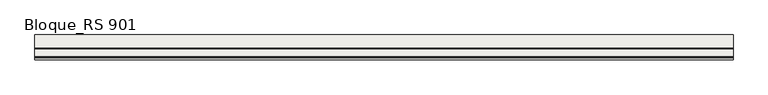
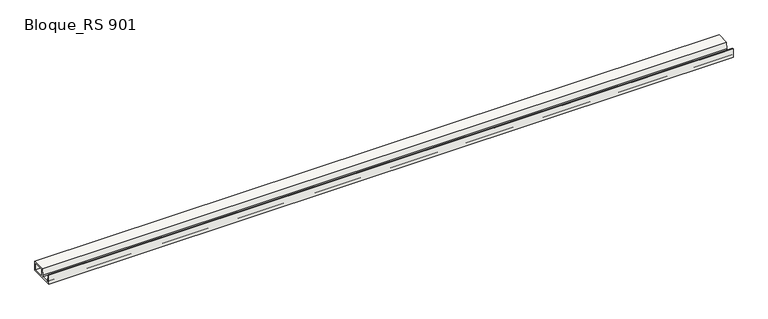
"""IFC4 building model written with IfcOpenShell, lengths in millimetres: slab geometry, ROSA GRES_RS 901 : Bloque_RS 901."""

from ifc_helpers import new_model, si_unit, point, frame, frame_2d, origin, place, context, project, spatial, polyline, circle_curve, trimmed, segment, composite_curve, outline, extrude, source, transform, mapped, element, save


def bloque_rs_901_d4c59469(model_context):
    return source(origin(), model_context, "Body", "SweptSolid", [
        extrude(outline(composite_curve([segment(polyline([(-12.836227, 188.7539108), (-12.836227, 1.7539108), (-508.836227, 1.7539108), (-508.836227, 188.7539108), (-481.967602, 188.7539108), (-468.4315983, 49.1487962)]), True, "CONTINUOUS"), segment(trimmed(circle_curve(frame_2d((-448.7892677, 51.599206)), 19.7945866), [point((-468.4315983, 49.1487962))], [point((-448.3978535, 31.8084896))], True, "CARTESIAN"), True, "CONTINUOUS"), segment(polyline([(-448.3978535, 31.8084896), (-302.2746005, 31.8084896)]), True, "CONTINUOUS"), segment(trimmed(circle_curve(frame_2d((-301.8831862, 51.599206)), 19.7945866), [point((-302.2746005, 31.8084896))], [point((-282.2408556, 49.1487962))], True, "CARTESIAN"), True, "CONTINUOUS"), segment(polyline([(-282.2408556, 49.1487962), (-268.704852, 188.7539108), (-12.836227, 188.7539108)]), True, "CONTINUOUS")], self_intersect=False), holes=[polyline([(-241.836227, 158.7539108), (-241.836227, 26.7539108), (-37.836227, 26.7539108), (-37.836227, 158.7539108), (-241.836227, 158.7539108)])]), frame((0.0, 0.0, 0.0), z_axis=(1.0, 0.0, 0.0), x_axis=(0.0, 1.0, 0.0)), (0.0, 0.0, 1.0), 14003.6565286),
    ])


if __name__ == "__main__":
    model = new_model("IFC4")
    model_context = context("Model", 3, world=origin())
    ifc_project = project(units=[si_unit("LENGTHUNIT", "METRE", prefix="MILLI")], contexts=[model_context])
    site = spatial("IfcSite", under=ifc_project)
    building = spatial("IfcBuilding", under=site)
    placement = place(None, origin())
    bloque_rs_901_shape = bloque_rs_901_d4c59469(model_context)
    element("IfcSlab", 1, ObjectType="ROSA GRES_RS 901 : Bloque_RS 901", at=placement, inside=building, context=model_context, shape_type="MappedRepresentation", body=[
        mapped(bloque_rs_901_shape, transform((0.0, 0.0, 0.0), x_axis=(1.0, 0.0, 0.0), y_axis=(0.0, 1.0, 0.0), z_axis=(0.0, 0.0, 1.0))),
    ])
    save(model, "model.ifc")
